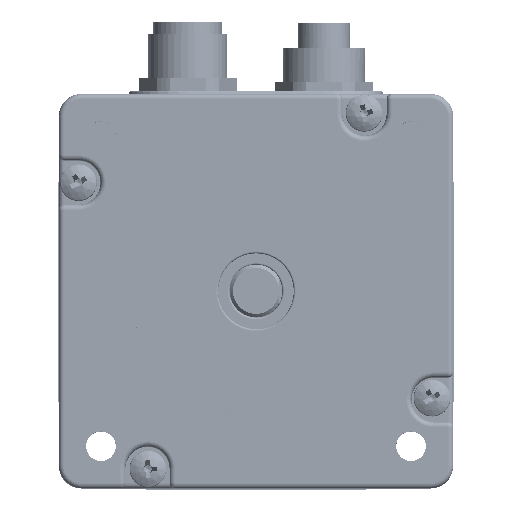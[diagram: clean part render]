
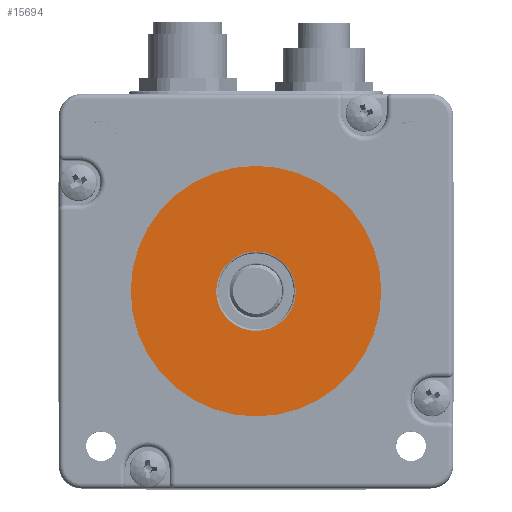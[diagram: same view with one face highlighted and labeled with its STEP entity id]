
A CAD part, top view. The second image highlights one B-rep face of the part: STEP entity #15694.
In plain terms, the highlighted planar face has unit normal (0, 0, 1).
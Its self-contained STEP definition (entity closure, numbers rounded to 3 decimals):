
#15694 = ADVANCED_FACE ( 'NONE', ( #193547, #175352 ), #212879, .T. ) ;
#23746 = CARTESIAN_POINT ( 'NONE',  ( -67.266, 24.237, 42.45 ) ) ;
#25384 = DIRECTION ( 'NONE',  ( 1., 0., 0. ) ) ;
#31361 = AXIS2_PLACEMENT_3D ( 'NONE', #230283, #35070, #208210 ) ;
#35070 = DIRECTION ( 'NONE',  ( 0., 0., -1. ) ) ;
#41849 = VERTEX_POINT ( 'NONE', #23746 ) ;
#49312 = ORIENTED_EDGE ( 'NONE', *, *, #185691, .T. ) ;
#59332 = AXIS2_PLACEMENT_3D ( 'NONE', #150227, #152757, #231776 ) ;
#62561 = VERTEX_POINT ( 'NONE', #90899 ) ;
#72680 = CIRCLE ( 'NONE', #31361, 6.05 ) ;
#76354 = DIRECTION ( 'NONE',  ( 1., 0., 0. ) ) ;
#78753 = VERTEX_POINT ( 'NONE', #223122 ) ;
#79825 = CARTESIAN_POINT ( 'NONE',  ( -61.216, 24.237, 42.45 ) ) ;
#84723 = CARTESIAN_POINT ( 'NONE',  ( -61.216, 24.237, 42.45 ) ) ;
#90899 = CARTESIAN_POINT ( 'NONE',  ( -80.266, 24.237, 42.45 ) ) ;
#98676 = EDGE_CURVE ( 'NONE', #41849, #201568, #72680, .T. ) ;
#101889 = EDGE_LOOP ( 'NONE', ( #242183, #237775 ) ) ;
#118932 = DIRECTION ( 'NONE',  ( 0., 0., 1. ) ) ;
#124923 = AXIS2_PLACEMENT_3D ( 'NONE', #79825, #211631, #172830 ) ;
#136914 = CARTESIAN_POINT ( 'NONE',  ( -61.216, 24.237, 42.45 ) ) ;
#150227 = CARTESIAN_POINT ( 'NONE',  ( -61.216, 24.237, 42.45 ) ) ;
#152757 = DIRECTION ( 'NONE',  ( 0., 0., -1. ) ) ;
#162390 = ORIENTED_EDGE ( 'NONE', *, *, #192254, .T. ) ;
#164812 = CARTESIAN_POINT ( 'NONE',  ( -55.166, 24.237, 42.45 ) ) ;
#170610 = CIRCLE ( 'NONE', #59332, 6.05 ) ;
#172830 = DIRECTION ( 'NONE',  ( 1., 0., 0. ) ) ;
#175352 = FACE_OUTER_BOUND ( 'NONE', #213152, .T. ) ;
#185691 = EDGE_CURVE ( 'NONE', #62561, #78753, #213103, .T. ) ;
#188419 = AXIS2_PLACEMENT_3D ( 'NONE', #84723, #206086, #25384 ) ;
#192254 = EDGE_CURVE ( 'NONE', #78753, #62561, #247709, .T. ) ;
#193547 = FACE_BOUND ( 'NONE', #101889, .T. ) ;
#193934 = AXIS2_PLACEMENT_3D ( 'NONE', #136914, #118932, #76354 ) ;
#201568 = VERTEX_POINT ( 'NONE', #164812 ) ;
#206086 = DIRECTION ( 'NONE',  ( 0., 0., 1. ) ) ;
#208210 = DIRECTION ( 'NONE',  ( 1., 0., 0. ) ) ;
#211631 = DIRECTION ( 'NONE',  ( 0., 0., 1. ) ) ;
#212879 = PLANE ( 'NONE',  #124923 ) ;
#213103 = CIRCLE ( 'NONE', #188419, 19.05 ) ;
#213152 = EDGE_LOOP ( 'NONE', ( #49312, #162390 ) ) ;
#223122 = CARTESIAN_POINT ( 'NONE',  ( -42.166, 24.237, 42.45 ) ) ;
#229778 = EDGE_CURVE ( 'NONE', #201568, #41849, #170610, .T. ) ;
#230283 = CARTESIAN_POINT ( 'NONE',  ( -61.216, 24.237, 42.45 ) ) ;
#231776 = DIRECTION ( 'NONE',  ( 1., 0., 0. ) ) ;
#237775 = ORIENTED_EDGE ( 'NONE', *, *, #98676, .T. ) ;
#242183 = ORIENTED_EDGE ( 'NONE', *, *, #229778, .T. ) ;
#247709 = CIRCLE ( 'NONE', #193934, 19.05 ) ;
